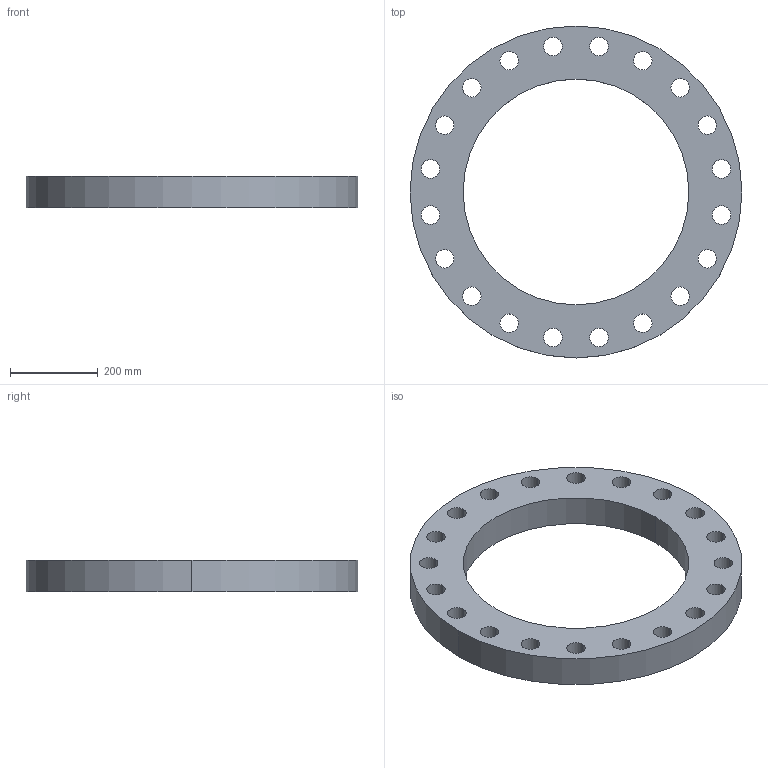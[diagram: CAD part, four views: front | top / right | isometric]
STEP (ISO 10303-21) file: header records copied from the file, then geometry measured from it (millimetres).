
FILE_DESCRIPTION (( 'STEP AP214' ), '1' );
FILE_NAME ('PN40 DN500 Type 01 - Type A Face.STEP', '2018-12-29T01:39:32', ( '' ), ( '' ), 'SwSTEP 2.0', 'SolidWorks 2019', '' );
FILE_SCHEMA (( 'AUTOMOTIVE_DESIGN' ));
Length unit declared in the file: millimetre
Products named in the file (1): PN40 DN500 Type 01 - Type A Face
Bounding box: 755 x 755 x 72 mm (x, y, z)
Volume: 15328237.4 mm3; surface area: 902715.8 mm2
Topology: 1 solids, 1 shells, 46 faces, 132 edges, 88 vertices
Faces by surface type: cylinder 44, plane 2
Entity records: 1682 total; most frequent: DIRECTION 314, CARTESIAN_POINT 267, ORIENTED_EDGE 264, AXIS2_PLACEMENT_3D 135, EDGE_CURVE 132, CIRCLE 88, VERTEX_POINT 88, EDGE_LOOP 88
